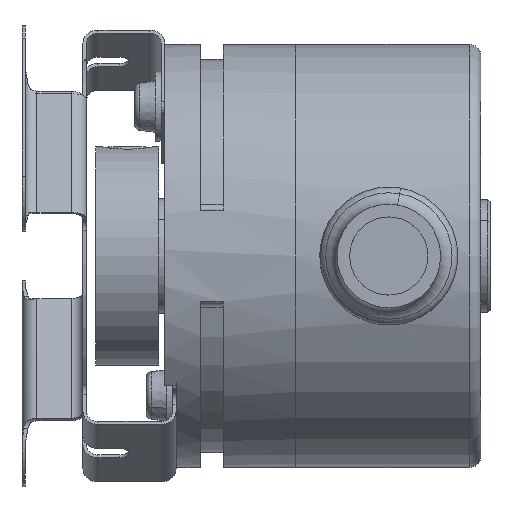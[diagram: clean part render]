
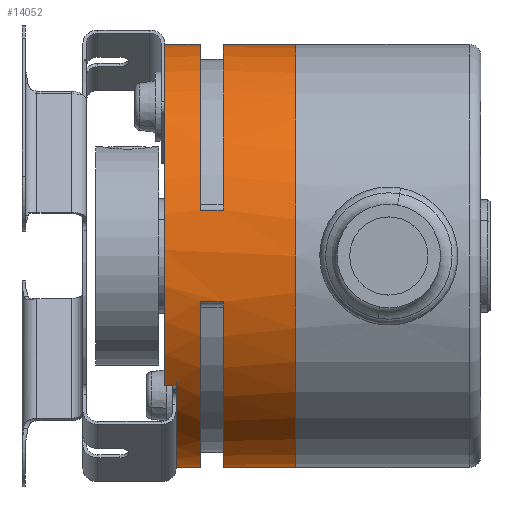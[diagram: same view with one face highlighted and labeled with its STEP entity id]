
A CAD part, front view. The second image highlights one B-rep face of the part: STEP entity #14052.
In plain terms, the highlighted cylindrical face has radius 18.4 mm (diameter 36.8 mm), a partial arc.
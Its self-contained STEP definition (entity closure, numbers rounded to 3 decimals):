
#69 = VERTEX_POINT ( 'NONE', #19501 ) ;
#1902 = CARTESIAN_POINT ( 'NONE',  ( -4.185, -1.266, -10.124 ) ) ;
#1922 = DIRECTION ( 'NONE',  ( -1., 0., 0. ) ) ;
#1923 = VECTOR ( 'NONE', #1922, 1000. ) ;
#1924 = CARTESIAN_POINT ( 'NONE',  ( -11.685, -1.266, -10.124 ) ) ;
#1925 = LINE ( 'NONE', #1924, #1923 ) ;
#2040 = DIRECTION ( 'NONE',  ( -1., 0., 0. ) ) ;
#2041 = VECTOR ( 'NONE', #2040, 1000. ) ;
#2042 = CARTESIAN_POINT ( 'NONE',  ( -11.685, -1.266, -10.124 ) ) ;
#2043 = LINE ( 'NONE', #2042, #2041 ) ;
#2044 = CARTESIAN_POINT ( 'NONE',  ( 4.115, -1.266, 26.676 ) ) ;
#2049 = CARTESIAN_POINT ( 'NONE',  ( 4.115, -1.266, -10.124 ) ) ;
#2085 = CARTESIAN_POINT ( 'NONE',  ( -2.185, -1.266, -10.124 ) ) ;
#2374 = CARTESIAN_POINT ( 'NONE',  ( -4.185, -1.266, 26.676 ) ) ;
#2449 = CARTESIAN_POINT ( 'NONE',  ( -7.285, -1.266, 26.676 ) ) ;
#2478 = DIRECTION ( 'NONE',  ( -1., 0., 0. ) ) ;
#2479 = VECTOR ( 'NONE', #2478, 1000. ) ;
#2480 = CARTESIAN_POINT ( 'NONE',  ( -11.685, -1.266, 26.676 ) ) ;
#2481 = LINE ( 'NONE', #2480, #2479 ) ;
#2657 = CARTESIAN_POINT ( 'NONE',  ( -2.185, -1.266, 26.676 ) ) ;
#2717 = DIRECTION ( 'NONE',  ( -1., 0., 0. ) ) ;
#2718 = VECTOR ( 'NONE', #2717, 1000. ) ;
#2719 = CARTESIAN_POINT ( 'NONE',  ( -11.685, -1.266, 26.676 ) ) ;
#2720 = LINE ( 'NONE', #2719, #2718 ) ;
#5918 = VERTEX_POINT ( 'NONE', #1902 ) ;
#5924 = EDGE_CURVE ( 'NONE', #5918, #69, #1925, .T. ) ;
#5965 = VERTEX_POINT ( 'NONE', #2049 ) ;
#5966 = VERTEX_POINT ( 'NONE', #2044 ) ;
#5967 = EDGE_CURVE ( 'NONE', #5965, #5972, #2043, .T. ) ;
#5972 = VERTEX_POINT ( 'NONE', #2085 ) ;
#6086 = VERTEX_POINT ( 'NONE', #2374 ) ;
#6112 = VERTEX_POINT ( 'NONE', #2449 ) ;
#6116 = EDGE_CURVE ( 'NONE', #5966, #6315, #2481, .T. ) ;
#6315 = VERTEX_POINT ( 'NONE', #2657 ) ;
#6336 = EDGE_CURVE ( 'NONE', #6086, #6112, #2720, .T. ) ;
#7815 = DIRECTION ( 'NONE',  ( 0., 0., 1. ) ) ;
#7816 = DIRECTION ( 'NONE',  ( -1., 0., 0. ) ) ;
#7817 = CARTESIAN_POINT ( 'NONE',  ( -6.285, -1.266, 8.276 ) ) ;
#7818 = AXIS2_PLACEMENT_3D ( 'NONE', #7817, #7816, #7815 ) ;
#7819 = CIRCLE ( 'NONE', #7818, 18.4 ) ;
#8485 = FACE_OUTER_BOUND ( 'NONE', #14053, .T. ) ;
#8516 = DIRECTION ( 'NONE',  ( 0., 0., 1. ) ) ;
#8517 = DIRECTION ( 'NONE',  ( -1., 0., 0. ) ) ;
#8518 = AXIS2_PLACEMENT_3D ( 'NONE', #8521, #8517, #8516 ) ;
#8519 = CYLINDRICAL_SURFACE ( 'NONE', #8518, 18.4 ) ;
#8521 = CARTESIAN_POINT ( 'NONE',  ( -11.685, -1.266, 8.276 ) ) ;
#8649 = AXIS2_PLACEMENT_3D ( 'NONE', #8656, #8709, #8708 ) ;
#8650 = CIRCLE ( 'NONE', #8649, 18.4 ) ;
#8656 = CARTESIAN_POINT ( 'NONE',  ( 4.115, -1.266, 8.276 ) ) ;
#8708 = DIRECTION ( 'NONE',  ( 0., 0., 1. ) ) ;
#8709 = DIRECTION ( 'NONE',  ( -1., 0., 0. ) ) ;
#8737 = DIRECTION ( 'NONE',  ( 0., 0., -1. ) ) ;
#8739 = DIRECTION ( 'NONE',  ( 1., 0., 0. ) ) ;
#8740 = CARTESIAN_POINT ( 'NONE',  ( -2.185, -1.266, 8.276 ) ) ;
#8741 = AXIS2_PLACEMENT_3D ( 'NONE', #8740, #8739, #8737 ) ;
#8742 = CIRCLE ( 'NONE', #8741, 18.4 ) ;
#8745 = LINE ( 'NONE', #8810, #8809 ) ;
#8746 = DIRECTION ( 'NONE',  ( 0., 0., 1. ) ) ;
#8747 = DIRECTION ( 'NONE',  ( -1., 0., 0. ) ) ;
#8749 = CARTESIAN_POINT ( 'NONE',  ( -7.285, -1.266, 8.276 ) ) ;
#8750 = AXIS2_PLACEMENT_3D ( 'NONE', #8749, #8747, #8746 ) ;
#8751 = CIRCLE ( 'NONE', #8750, 18.4 ) ;
#8753 = CARTESIAN_POINT ( 'NONE',  ( -7.285, -15.836, -2.961 ) ) ;
#8754 = DIRECTION ( 'NONE',  ( 0., 0., -1. ) ) ;
#8755 = DIRECTION ( 'NONE',  ( 1., 0., 0. ) ) ;
#8756 = CARTESIAN_POINT ( 'NONE',  ( -4.185, -1.266, 8.276 ) ) ;
#8757 = AXIS2_PLACEMENT_3D ( 'NONE', #8756, #8755, #8754 ) ;
#8758 = CIRCLE ( 'NONE', #8757, 18.4 ) ;
#8759 = CARTESIAN_POINT ( 'NONE',  ( -4.185, -19.226, 12.276 ) ) ;
#8760 = DIRECTION ( 'NONE',  ( -1., 0., 0. ) ) ;
#8761 = VECTOR ( 'NONE', #8760, 1000. ) ;
#8762 = CARTESIAN_POINT ( 'NONE',  ( -2.185, -19.226, 12.276 ) ) ;
#8763 = LINE ( 'NONE', #8762, #8761 ) ;
#8764 = DIRECTION ( 'NONE',  ( 0., 0., -1. ) ) ;
#8765 = DIRECTION ( 'NONE',  ( 1., 0., 0. ) ) ;
#8766 = CARTESIAN_POINT ( 'NONE',  ( -2.185, -1.266, 8.276 ) ) ;
#8767 = AXIS2_PLACEMENT_3D ( 'NONE', #8766, #8765, #8764 ) ;
#8768 = CIRCLE ( 'NONE', #8767, 18.4 ) ;
#8774 = CARTESIAN_POINT ( 'NONE',  ( -2.185, -19.226, 12.276 ) ) ;
#8807 = CARTESIAN_POINT ( 'NONE',  ( -6.285, -15.836, -2.961 ) ) ;
#8808 = DIRECTION ( 'NONE',  ( -1., 0., 0. ) ) ;
#8809 = VECTOR ( 'NONE', #8808, 1000. ) ;
#8810 = CARTESIAN_POINT ( 'NONE',  ( -6.285, -15.836, -2.961 ) ) ;
#8823 = CARTESIAN_POINT ( 'NONE',  ( -7.285, -3.712, -9.961 ) ) ;
#8824 = CARTESIAN_POINT ( 'NONE',  ( -6.285, -3.712, -9.961 ) ) ;
#8825 = DIRECTION ( 'NONE',  ( -1., 0., 0. ) ) ;
#8826 = VECTOR ( 'NONE', #8825, 1000. ) ;
#8827 = CARTESIAN_POINT ( 'NONE',  ( -6.285, -3.712, -9.961 ) ) ;
#8828 = LINE ( 'NONE', #8827, #8826 ) ;
#8851 = CARTESIAN_POINT ( 'NONE',  ( -2.185, -19.226, 4.276 ) ) ;
#8852 = DIRECTION ( 'NONE',  ( -1., 0., 0. ) ) ;
#8853 = VECTOR ( 'NONE', #8852, 1000. ) ;
#8854 = CARTESIAN_POINT ( 'NONE',  ( -2.185, -19.226, 4.276 ) ) ;
#8855 = LINE ( 'NONE', #8854, #8853 ) ;
#8859 = CARTESIAN_POINT ( 'NONE',  ( -4.185, -19.226, 4.276 ) ) ;
#8861 = DIRECTION ( 'NONE',  ( 0., 0., 1. ) ) ;
#8862 = DIRECTION ( 'NONE',  ( -1., 0., 0. ) ) ;
#8863 = AXIS2_PLACEMENT_3D ( 'NONE', #8870, #8862, #8861 ) ;
#8864 = CIRCLE ( 'NONE', #8863, 18.4 ) ;
#8870 = CARTESIAN_POINT ( 'NONE',  ( -7.285, -1.266, 8.276 ) ) ;
#8872 = DIRECTION ( 'NONE',  ( 0., 0., -1. ) ) ;
#8873 = DIRECTION ( 'NONE',  ( 1., 0., 0. ) ) ;
#8874 = CARTESIAN_POINT ( 'NONE',  ( -4.185, -1.266, 8.276 ) ) ;
#8875 = AXIS2_PLACEMENT_3D ( 'NONE', #8874, #8873, #8872 ) ;
#8876 = CIRCLE ( 'NONE', #8875, 18.4 ) ;
#13780 = ORIENTED_EDGE ( 'NONE', *, *, #5967, .F. ) ;
#13851 = EDGE_CURVE ( 'NONE', #14205, #14177, #7819, .T. ) ;
#14052 = ADVANCED_FACE ( 'NONE', ( #8485 ), #8519, .T. ) ;
#14053 = EDGE_LOOP ( 'NONE', ( #13780, #14162, #14160, #14161, #14164, #14171, #14170, #14173, #14175, #14178, #14203, #14209, #14219, #14212, #14221, #14223 ) ) ;
#14135 = EDGE_CURVE ( 'NONE', #5965, #5966, #8650, .T. ) ;
#14141 = EDGE_CURVE ( 'NONE', #14229, #5972, #8742, .T. ) ;
#14158 = VERTEX_POINT ( 'NONE', #8774 ) ;
#14160 = ORIENTED_EDGE ( 'NONE', *, *, #6116, .T. ) ;
#14161 = ORIENTED_EDGE ( 'NONE', *, *, #14166, .T. ) ;
#14162 = ORIENTED_EDGE ( 'NONE', *, *, #14135, .T. ) ;
#14164 = ORIENTED_EDGE ( 'NONE', *, *, #14167, .T. ) ;
#14166 = EDGE_CURVE ( 'NONE', #6315, #14158, #8768, .T. ) ;
#14167 = EDGE_CURVE ( 'NONE', #14158, #14168, #8763, .T. ) ;
#14168 = VERTEX_POINT ( 'NONE', #8759 ) ;
#14169 = EDGE_CURVE ( 'NONE', #6086, #14168, #8758, .T. ) ;
#14170 = ORIENTED_EDGE ( 'NONE', *, *, #6336, .T. ) ;
#14171 = ORIENTED_EDGE ( 'NONE', *, *, #14169, .F. ) ;
#14172 = VERTEX_POINT ( 'NONE', #8753 ) ;
#14173 = ORIENTED_EDGE ( 'NONE', *, *, #14174, .F. ) ;
#14174 = EDGE_CURVE ( 'NONE', #14172, #6112, #8751, .T. ) ;
#14175 = ORIENTED_EDGE ( 'NONE', *, *, #14176, .F. ) ;
#14176 = EDGE_CURVE ( 'NONE', #14177, #14172, #8745, .T. ) ;
#14177 = VERTEX_POINT ( 'NONE', #8807 ) ;
#14178 = ORIENTED_EDGE ( 'NONE', *, *, #13851, .F. ) ;
#14203 = ORIENTED_EDGE ( 'NONE', *, *, #14204, .T. ) ;
#14204 = EDGE_CURVE ( 'NONE', #14205, #14206, #8828, .T. ) ;
#14205 = VERTEX_POINT ( 'NONE', #8824 ) ;
#14206 = VERTEX_POINT ( 'NONE', #8823 ) ;
#14209 = ORIENTED_EDGE ( 'NONE', *, *, #14217, .F. ) ;
#14212 = ORIENTED_EDGE ( 'NONE', *, *, #14213, .F. ) ;
#14213 = EDGE_CURVE ( 'NONE', #14220, #5918, #8876, .T. ) ;
#14217 = EDGE_CURVE ( 'NONE', #69, #14206, #8864, .T. ) ;
#14219 = ORIENTED_EDGE ( 'NONE', *, *, #5924, .F. ) ;
#14220 = VERTEX_POINT ( 'NONE', #8859 ) ;
#14221 = ORIENTED_EDGE ( 'NONE', *, *, #14228, .F. ) ;
#14223 = ORIENTED_EDGE ( 'NONE', *, *, #14141, .T. ) ;
#14228 = EDGE_CURVE ( 'NONE', #14229, #14220, #8855, .T. ) ;
#14229 = VERTEX_POINT ( 'NONE', #8851 ) ;
#19501 = CARTESIAN_POINT ( 'NONE',  ( -7.285, -1.266, -10.124 ) ) ;
